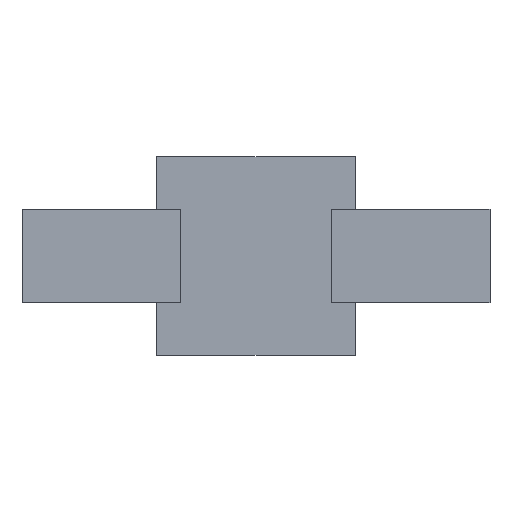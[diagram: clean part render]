
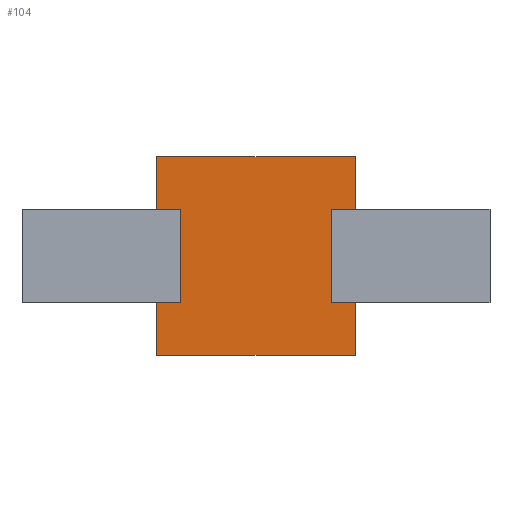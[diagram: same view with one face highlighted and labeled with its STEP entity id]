
A CAD part, top view. The second image highlights one B-rep face of the part: STEP entity #104.
In plain terms, the highlighted planar face has unit normal (0, 0, 1).
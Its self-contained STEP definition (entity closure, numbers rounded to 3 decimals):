
#104=ADVANCED_FACE('',(#257),#259,.T.);
#257=FACE_BOUND('',#258,.T.);
#258=EDGE_LOOP('',(#541,#542,#543,#544,#545,#546,#547,#548,#549,#550,#551,#552));
#259=PLANE('',#260);
#260=AXIS2_PLACEMENT_3D('',#261,#262,#263);
#261=CARTESIAN_POINT('',(0.,0.,1.2));
#262=DIRECTION('',(0.,0.,1.));
#263=DIRECTION('',(1.,0.,0.));
#541=ORIENTED_EDGE('',*,*,#762,.F.);
#542=ORIENTED_EDGE('',*,*,#761,.T.);
#543=ORIENTED_EDGE('',*,*,#763,.T.);
#544=ORIENTED_EDGE('',*,*,#764,.T.);
#545=ORIENTED_EDGE('',*,*,#765,.F.);
#546=ORIENTED_EDGE('',*,*,#766,.T.);
#547=ORIENTED_EDGE('',*,*,#767,.F.);
#548=ORIENTED_EDGE('',*,*,#768,.T.);
#549=ORIENTED_EDGE('',*,*,#769,.T.);
#550=ORIENTED_EDGE('',*,*,#757,.T.);
#551=ORIENTED_EDGE('',*,*,#770,.F.);
#552=ORIENTED_EDGE('',*,*,#744,.T.);
#744=EDGE_CURVE('',#890,#891,#892,.T.);
#757=EDGE_CURVE('',#913,#901,#914,.T.);
#761=EDGE_CURVE('',#903,#919,#921,.T.);
#762=EDGE_CURVE('',#903,#891,#922,.T.);
#763=EDGE_CURVE('',#919,#923,#924,.T.);
#764=EDGE_CURVE('',#923,#925,#926,.T.);
#765=EDGE_CURVE('',#927,#925,#928,.T.);
#766=EDGE_CURVE('',#927,#929,#930,.T.);
#767=EDGE_CURVE('',#931,#929,#932,.T.);
#768=EDGE_CURVE('',#931,#933,#934,.T.);
#769=EDGE_CURVE('',#933,#913,#935,.T.);
#770=EDGE_CURVE('',#890,#901,#936,.T.);
#890=VERTEX_POINT('',#1013);
#891=VERTEX_POINT('',#1014);
#892=LINE('',#1015,#1016);
#901=VERTEX_POINT('',#1034);
#903=VERTEX_POINT('',#1038);
#913=VERTEX_POINT('',#1062);
#914=LINE('',#1063,#1064);
#919=VERTEX_POINT('',#1074);
#921=LINE('',#1078,#1079);
#922=LINE('',#1081,#1082);
#923=VERTEX_POINT('',#1084);
#924=LINE('',#1085,#1086);
#925=VERTEX_POINT('',#1088);
#926=LINE('',#1089,#1090);
#927=VERTEX_POINT('',#1092);
#928=LINE('',#1093,#1094);
#929=VERTEX_POINT('',#1096);
#930=LINE('',#1097,#1098);
#931=VERTEX_POINT('',#1100);
#932=LINE('',#1101,#1102);
#933=VERTEX_POINT('',#1104);
#934=LINE('',#1105,#1106);
#935=LINE('',#1108,#1109);
#936=LINE('',#1111,#1112);
#1013=CARTESIAN_POINT('',(-4.85,3.,1.2));
#1014=CARTESIAN_POINT('',(-4.85,-3.,1.2));
#1015=CARTESIAN_POINT('',(-4.85,3.,1.2));
#1016=VECTOR('',#1017,1.);
#1017=DIRECTION('',(0.,-1.,0.));
#1034=CARTESIAN_POINT('',(-6.35,3.,1.2));
#1038=CARTESIAN_POINT('',(-6.35,-3.,1.2));
#1062=CARTESIAN_POINT('',(-6.35,6.35,1.2));
#1063=CARTESIAN_POINT('',(-6.35,6.35,1.2));
#1064=VECTOR('',#1065,1.);
#1065=DIRECTION('',(0.,-1.,0.));
#1074=CARTESIAN_POINT('',(-6.35,-6.35,1.2));
#1078=CARTESIAN_POINT('',(-6.35,-3.,1.2));
#1079=VECTOR('',#1080,1.);
#1080=DIRECTION('',(0.,-1.,0.));
#1081=CARTESIAN_POINT('',(-6.35,-3.,1.2));
#1082=VECTOR('',#1083,1.);
#1083=DIRECTION('',(1.,0.,0.));
#1084=CARTESIAN_POINT('',(6.35,-6.35,1.2));
#1085=CARTESIAN_POINT('',(-6.35,-6.35,1.2));
#1086=VECTOR('',#1087,1.);
#1087=DIRECTION('',(1.,0.,0.));
#1088=CARTESIAN_POINT('',(6.35,-3.,1.2));
#1089=CARTESIAN_POINT('',(6.35,-6.35,1.2));
#1090=VECTOR('',#1091,1.);
#1091=DIRECTION('',(0.,1.,0.));
#1092=CARTESIAN_POINT('',(4.85,-3.,1.2));
#1093=CARTESIAN_POINT('',(4.85,-3.,1.2));
#1094=VECTOR('',#1095,1.);
#1095=DIRECTION('',(1.,0.,0.));
#1096=CARTESIAN_POINT('',(4.85,3.,1.2));
#1097=CARTESIAN_POINT('',(4.85,-3.,1.2));
#1098=VECTOR('',#1099,1.);
#1099=DIRECTION('',(0.,1.,0.));
#1100=CARTESIAN_POINT('',(6.35,3.,1.2));
#1101=CARTESIAN_POINT('',(6.35,3.,1.2));
#1102=VECTOR('',#1103,1.);
#1103=DIRECTION('',(-1.,0.,0.));
#1104=CARTESIAN_POINT('',(6.35,6.35,1.2));
#1105=CARTESIAN_POINT('',(6.35,3.,1.2));
#1106=VECTOR('',#1107,1.);
#1107=DIRECTION('',(0.,1.,0.));
#1108=CARTESIAN_POINT('',(6.35,6.35,1.2));
#1109=VECTOR('',#1110,1.);
#1110=DIRECTION('',(-1.,0.,0.));
#1111=CARTESIAN_POINT('',(-4.85,3.,1.2));
#1112=VECTOR('',#1113,1.);
#1113=DIRECTION('',(-1.,0.,0.));
